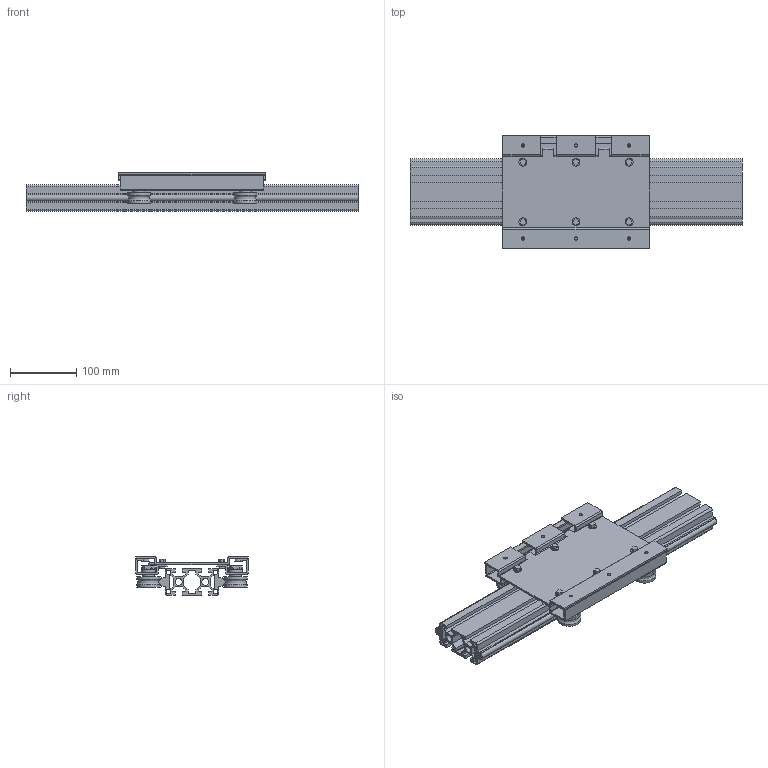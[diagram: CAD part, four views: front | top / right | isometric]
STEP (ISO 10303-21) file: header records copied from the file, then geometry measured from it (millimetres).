
FILE_DESCRIPTION((''),'2;1');
FILE_NAME('C:\Documents and Settings\土屋\My Documents\土屋移動用フォルダ\製品 (図面)\LSダウンロード用図面\新型キャリッジ\LS-W\step形式\LS8040AW.stp','2017-08-23T11:43:47',('y'),(''),'Autodesk Inventor 11','Autodesk Inventor 11','');
FILE_SCHEMA(('AUTOMOTIVE_DESIGN { 1 0 10303 214 1 1 1 1 }'));
Length unit declared in the file: millimetre
Products named in the file (3): LS8040AW; LS8040AWレール; LS8040AWキャリッジ
Assembly tree (2 placements, depth 2):
  LS8040AW
    LS8040AWレール
    LS8040AWキャリッジ
Bounding box: 500 x 170 x 58 mm (x, y, z)
Volume: 1059543.5 mm3; surface area: 555851.7 mm2
Topology: 6 solids, 6 shells, 459 faces, 1182 edges, 764 vertices
Faces by surface type: plane 279, cylinder 106, cone 60, bspline 14
Full cylindrical faces by diameter (mm): 8.8 x6, 10.5 x2, 11 x6, 12 x10, 18 x4, 21 x4, 35 x8
Entity records: 13904 total; most frequent: CARTESIAN_POINT 2998, DIRECTION 2204, ORIENTED_EDGE 2204, EDGE_CURVE 1102, VERTEX_POINT 750, AXIS2_PLACEMENT_3D 748, VECTOR 708, LINE 708
